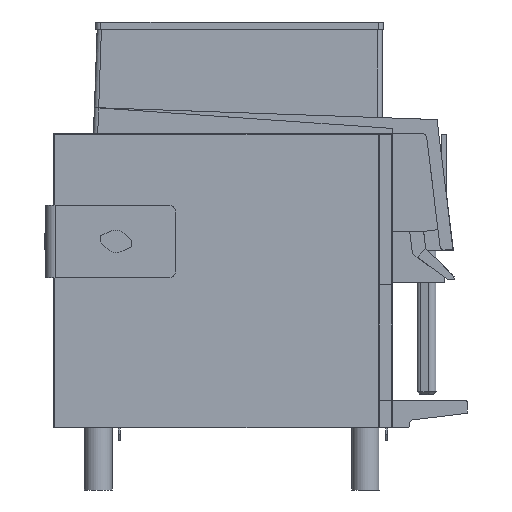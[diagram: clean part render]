
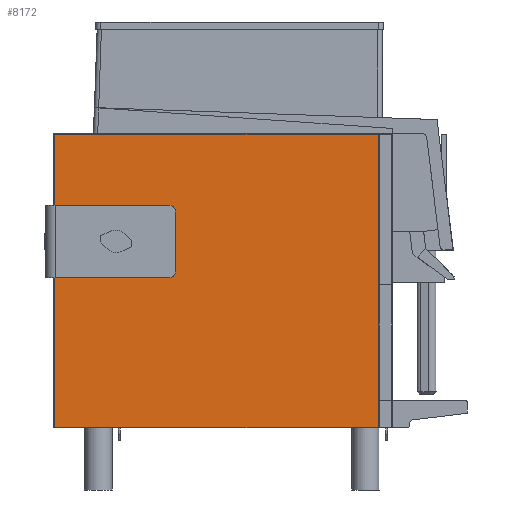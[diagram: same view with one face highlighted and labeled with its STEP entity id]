
A CAD part, left-side view. The second image highlights one B-rep face of the part: STEP entity #8172.
In plain terms, the highlighted planar face has unit normal (-1, 0, 0).
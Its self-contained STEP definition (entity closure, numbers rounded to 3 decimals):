
#406=LINE('',#11264,#1100);
#459=LINE('',#11383,#1153);
#460=LINE('',#11385,#1154);
#461=LINE('',#11387,#1155);
#1100=VECTOR('',#9409,1000.);
#1153=VECTOR('',#9522,1000.);
#1154=VECTOR('',#9523,1000.);
#1155=VECTOR('',#9524,1000.);
#1998=ORIENTED_EDGE('',*,*,#3601,.F.);
#1999=ORIENTED_EDGE('',*,*,#3664,.T.);
#2000=ORIENTED_EDGE('',*,*,#3665,.T.);
#2001=ORIENTED_EDGE('',*,*,#3666,.T.);
#3601=EDGE_CURVE('',#4429,#4430,#406,.T.);
#3664=EDGE_CURVE('',#4429,#4466,#459,.T.);
#3665=EDGE_CURVE('',#4466,#4467,#460,.F.);
#3666=EDGE_CURVE('',#4467,#4430,#461,.F.);
#4429=VERTEX_POINT('',#11263);
#4430=VERTEX_POINT('',#11265);
#4466=VERTEX_POINT('',#11384);
#4467=VERTEX_POINT('',#11386);
#4943=EDGE_LOOP('',(#1998,#1999,#2000,#2001));
#5296=FACE_BOUND('',#4943,.T.);
#5626=PLANE('',#8587);
#8172=ADVANCED_FACE('',(#5296),#5626,.F.);
#8587=AXIS2_PLACEMENT_3D('',#11382,#9520,#9521);
#9409=DIRECTION('',(0.,1.,0.));
#9520=DIRECTION('',(1.,0.,0.));
#9521=DIRECTION('',(0.,1.,0.));
#9522=DIRECTION('',(0.,0.,1.));
#9523=DIRECTION('',(0.,-1.,0.));
#9524=DIRECTION('',(0.,0.,1.));
#11263=CARTESIAN_POINT('',(-160.,-470.,0.));
#11264=CARTESIAN_POINT('',(-160.,-490.,0.));
#11265=CARTESIAN_POINT('',(-160.,-1.2,0.));
#11382=CARTESIAN_POINT('',(-160.,0.,0.));
#11383=CARTESIAN_POINT('',(-160.,-470.,420.5));
#11384=CARTESIAN_POINT('',(-160.,-470.,424.8));
#11385=CARTESIAN_POINT('',(-160.,0.,424.8));
#11386=CARTESIAN_POINT('',(-160.,-1.2,424.8));
#11387=CARTESIAN_POINT('',(-160.,-1.2,0.));
